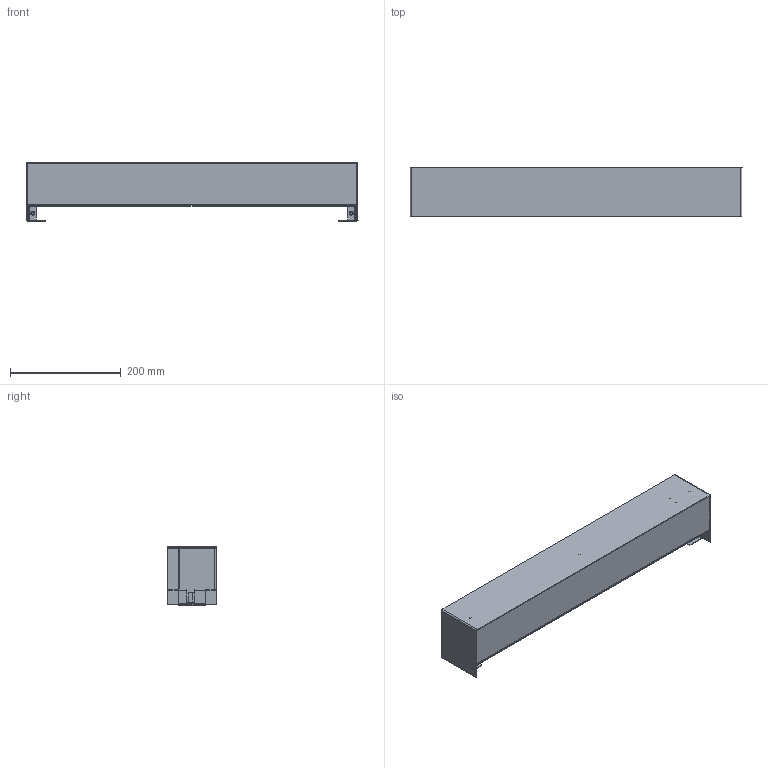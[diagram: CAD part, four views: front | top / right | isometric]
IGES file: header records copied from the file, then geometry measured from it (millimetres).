
Start section: SolidWorks IGES file using analytic representation for surfaces
Global section: file name: C:\Users\tungari.NEMOLIGHTING\Desktop\3D\WALL\3D_VIIVA_60000\DEF\3D_VIIVA_60.IGS; native system: SolidWorks 2016; preprocessor: SolidWorks 2016; author: tungari; date: 180314.163331; units: millimetre
Bounding box: 600 x 90 x 105.5 mm (x, y, z)
Surface area: 456246.9 mm2 (no closed solid volume)
Topology: 0 solids, 0 shells, 301 faces, 3012 edges, 3012 vertices
Faces by surface type: bspline 197, revolution 104
